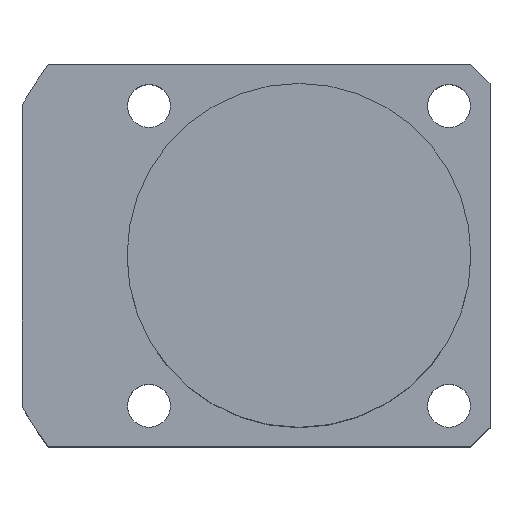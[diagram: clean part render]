
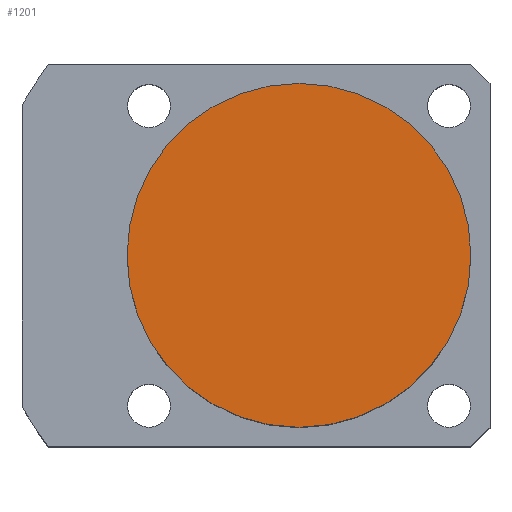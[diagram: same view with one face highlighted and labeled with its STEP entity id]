
A CAD part, top view. The second image highlights one B-rep face of the part: STEP entity #1201.
In plain terms, the highlighted planar face has unit normal (0, 0, 1).
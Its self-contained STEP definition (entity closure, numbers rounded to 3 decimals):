
#124 = AXIS2_PLACEMENT_3D ( 'NONE', #665, #992, #1621 ) ;
#292 = CARTESIAN_POINT ( 'NONE',  ( 18., 0., 38.5 ) ) ;
#299 = ORIENTED_EDGE ( 'NONE', *, *, #1888, .T. ) ;
#389 = CIRCLE ( 'NONE', #504, 18. ) ;
#390 = AXIS2_PLACEMENT_3D ( 'NONE', #521, #513, #1188 ) ;
#504 = AXIS2_PLACEMENT_3D ( 'NONE', #1880, #904, #1401 ) ;
#513 = DIRECTION ( 'NONE',  ( 0., 0., 1. ) ) ;
#521 = CARTESIAN_POINT ( 'NONE',  ( 0., 0., 38.5 ) ) ;
#665 = CARTESIAN_POINT ( 'NONE',  ( 0., 0., 38.5 ) ) ;
#904 = DIRECTION ( 'NONE',  ( 0., 0., 1. ) ) ;
#992 = DIRECTION ( 'NONE',  ( 0., 0., 1. ) ) ;
#1048 = CIRCLE ( 'NONE', #390, 18. ) ;
#1060 = EDGE_LOOP ( 'NONE', ( #299, #1177 ) ) ;
#1156 = PLANE ( 'NONE',  #124 ) ;
#1177 = ORIENTED_EDGE ( 'NONE', *, *, #2044, .T. ) ;
#1188 = DIRECTION ( 'NONE',  ( 1., 0., 0. ) ) ;
#1201 = ADVANCED_FACE ( 'NONE', ( #1636 ), #1156, .T. ) ;
#1301 = CARTESIAN_POINT ( 'NONE',  ( -18., 0., 38.5 ) ) ;
#1401 = DIRECTION ( 'NONE',  ( 1., 0., 0. ) ) ;
#1465 = VERTEX_POINT ( 'NONE', #292 ) ;
#1495 = VERTEX_POINT ( 'NONE', #1301 ) ;
#1621 = DIRECTION ( 'NONE',  ( 1., 0., 0. ) ) ;
#1636 = FACE_OUTER_BOUND ( 'NONE', #1060, .T. ) ;
#1880 = CARTESIAN_POINT ( 'NONE',  ( 0., 0., 38.5 ) ) ;
#1888 = EDGE_CURVE ( 'NONE', #1495, #1465, #389, .T. ) ;
#2044 = EDGE_CURVE ( 'NONE', #1465, #1495, #1048, .T. ) ;
